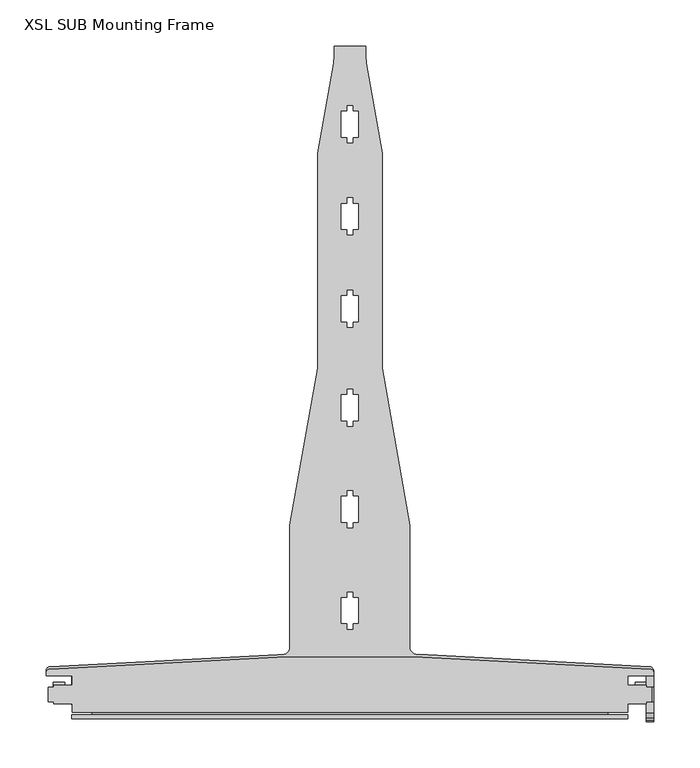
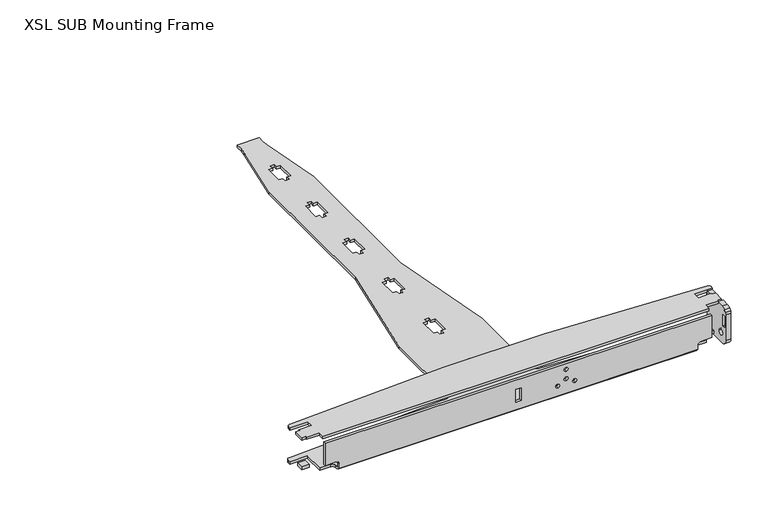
"""IFC4 building model written with IfcOpenShell, lengths in millimetres: proxy geometry, d&b SL-Series XSL SUB Mounting Frame : XSL SUB Mounting Frame."""

from ifc_helpers import new_model, si_unit, point, frame, frame_2d, origin, place, context, project, spatial, polyline, circle_curve, trimmed, segment, composite_curve, outline, extrude, source, transform, mapped, element, save
from ifc_brep_helpers import plane_surface, cylinder_surface, revolved_surface, advanced_brep


def xsl_sub_mounting_frame_cb1839e0(model_context):
    return source(origin(), model_context, "Body", "SolidModel", [
        advanced_brep(
        [(279.5, -3.0, -13.5), (-279.5, -3.0, -13.5), (-279.5, 0.0, -13.5), (-284.5, 5.0, -13.5), (-301.5, 5.0, -13.5), (-301.5, 37.5, -13.5), (-329.5, 37.5, -13.5), (-329.5, 41.5910151, -13.5), (-324.7616798, 46.5841628, -13.5), (-78.3128241, 59.5, -13.5), (-73.0, 59.5, -13.5), (-65.0, 67.5, -13.5), (-65.0, 200.0, -13.5), (-35.0, 370.1384546, -13.5), (-35.0, 603.0424941, -13.5), (-17.7596123, 700.8175911, -13.5), (-17.0, 709.5, -13.5), (-17.0, 719.5, -13.5), (17.0, 719.5, -13.5), (17.0, 709.5, -13.5), (17.7596123, 700.8175911, -13.5), (35.0, 603.0424941, -13.5), (35.0, 370.1384546, -13.5), (65.0, 200.0, -13.5), (65.0, 67.5, -13.5), (74.7244138, 59.6880606, -13.5), (324.7616798, 46.5841628, -13.5), (329.5, 41.5910151, -13.5), (329.5, 37.5, -13.5), (301.5, 37.5, -13.5), (301.5, 5.0, -13.5), (284.5, 5.0, -13.5), (279.5, 0.0, -13.5), (-3.0, 341.25, -13.5), (-9.25, 341.25, -13.5), (-9.25, 313.25, -13.5), (-3.0, 313.25, -13.5), (-3.0, 307.25, -13.5), (3.0, 307.25, -13.5), (3.0, 313.25, -13.5), (9.25, 313.25, -13.5), (9.25, 341.25, -13.5), (3.0, 341.25, -13.5), (3.0, 347.25, -13.5), (-3.0, 347.25, -13.5), (-3.0, 231.25, -13.5), (-9.25, 231.25, -13.5), (-9.25, 203.25, -13.5), (-3.0, 203.25, -13.5), (-3.0, 197.25, -13.5), (3.0, 197.25, -13.5), (3.0, 203.25, -13.5), (9.25, 203.25, -13.5), (9.25, 231.25, -13.5), (3.0, 231.25, -13.5), (3.0, 237.25, -13.5), (-3.0, 237.25, -13.5), (-3.0, 121.25, -13.5), (-9.25, 121.25, -13.5), (-9.25, 93.25, -13.5), (-3.0, 93.25, -13.5), (-3.0, 87.25, -13.5), (3.0, 87.25, -13.5), (3.0, 93.25, -13.5), (9.25, 93.25, -13.5), (9.25, 121.25, -13.5), (3.0, 121.25, -13.5), (3.0, 127.25, -13.5), (-3.0, 127.25, -13.5), (-3.0, 648.75, -13.5), (-9.25, 648.75, -13.5), (-9.25, 620.75, -13.5), (-3.0, 620.75, -13.5), (-3.0, 614.75, -13.5), (3.0, 614.75, -13.5), (3.0, 620.75, -13.5), (9.25, 620.75, -13.5), (9.25, 648.75, -13.5), (3.0, 648.75, -13.5), (3.0, 654.75, -13.5), (-3.0, 654.75, -13.5), (-3.0, 548.75, -13.5), (-9.25, 548.75, -13.5), (-9.25, 520.75, -13.5), (-3.0, 520.75, -13.5), (-3.0, 514.75, -13.5), (3.0, 514.75, -13.5), (3.0, 520.75, -13.5), (9.25, 520.75, -13.5), (9.25, 548.75, -13.5), (3.0, 548.75, -13.5), (3.0, 554.75, -13.5), (-3.0, 554.75, -13.5), (-3.0, 448.75, -13.5), (-9.25, 448.75, -13.5), (-9.25, 420.75, -13.5), (-3.0, 420.75, -13.5), (-3.0, 414.75, -13.5), (3.0, 414.75, -13.5), (3.0, 420.75, -13.5), (9.25, 420.75, -13.5), (9.25, 448.75, -13.5), (3.0, 448.75, -13.5), (3.0, 454.75, -13.5), (-3.0, 454.75, -13.5), (279.5, -3.0, -9.5), (279.5, 0.0, -9.5), (284.5, 5.0, -9.5), (301.5, 5.0, -9.5), (301.5, 37.5, -9.5), (329.5, 37.5, -9.5), (329.5, 41.5910151, -9.5), (324.7616798, 46.5841628, -9.5), (74.7244138, 59.6880606, -9.5), (65.0, 67.5, -9.5), (65.0, 200.0, -9.5), (35.0, 370.1384546, -9.5), (35.0, 603.0424941, -9.5), (17.7596123, 700.8175911, -9.5), (17.0, 709.5, -9.5), (17.0, 719.5, -9.5), (-17.0, 719.5, -9.5), (-17.0, 709.5, -9.5), (-17.7596123, 700.8175911, -9.5), (-35.0, 603.0424941, -9.5), (-35.0, 370.1384546, -9.5), (-65.0, 200.0, -9.5), (-65.0, 67.5, -9.5), (-73.0, 59.5, -9.5), (-78.3128241, 59.5, -9.5), (-324.7616798, 46.5841628, -9.5), (-329.5, 41.5910151, -9.5), (-329.5, 37.5, -9.5), (-301.5, 37.5, -9.5), (-301.5, 5.0, -9.5), (-284.5, 5.0, -9.5), (-279.5, 0.0, -9.5), (-279.5, -3.0, -9.5), (-3.0, 341.25, -9.5), (-3.0, 347.25, -9.5), (3.0, 347.25, -9.5), (3.0, 341.25, -9.5), (9.25, 341.25, -9.5), (9.25, 313.25, -9.5), (3.0, 313.25, -9.5), (3.0, 307.25, -9.5), (-3.0, 307.25, -9.5), (-3.0, 313.25, -9.5), (-9.25, 313.25, -9.5), (-9.25, 341.25, -9.5), (-3.0, 231.25, -9.5), (-3.0, 237.25, -9.5), (3.0, 237.25, -9.5), (3.0, 231.25, -9.5), (9.25, 231.25, -9.5), (9.25, 203.25, -9.5), (3.0, 203.25, -9.5), (3.0, 197.25, -9.5), (-3.0, 197.25, -9.5), (-3.0, 203.25, -9.5), (-9.25, 203.25, -9.5), (-9.25, 231.25, -9.5), (-3.0, 121.25, -9.5), (-3.0, 127.25, -9.5), (3.0, 127.25, -9.5), (3.0, 121.25, -9.5), (9.25, 121.25, -9.5), (9.25, 93.25, -9.5), (3.0, 93.25, -9.5), (3.0, 87.25, -9.5), (-3.0, 87.25, -9.5), (-3.0, 93.25, -9.5), (-9.25, 93.25, -9.5), (-9.25, 121.25, -9.5), (-3.0, 648.75, -9.5), (-3.0, 654.75, -9.5), (3.0, 654.75, -9.5), (3.0, 648.75, -9.5), (9.25, 648.75, -9.5), (9.25, 620.75, -9.5), (3.0, 620.75, -9.5), (3.0, 614.75, -9.5), (-3.0, 614.75, -9.5), (-3.0, 620.75, -9.5), (-9.25, 620.75, -9.5), (-9.25, 648.75, -9.5), (-3.0, 548.75, -9.5), (-3.0, 554.75, -9.5), (3.0, 554.75, -9.5), (3.0, 548.75, -9.5), (9.25, 548.75, -9.5), (9.25, 520.75, -9.5), (3.0, 520.75, -9.5), (3.0, 514.75, -9.5), (-3.0, 514.75, -9.5), (-3.0, 520.75, -9.5), (-9.25, 520.75, -9.5), (-9.25, 548.75, -9.5), (-3.0, 448.75, -9.5), (-3.0, 454.75, -9.5), (3.0, 454.75, -9.5), (3.0, 448.75, -9.5), (9.25, 448.75, -9.5), (9.25, 420.75, -9.5), (3.0, 420.75, -9.5), (3.0, 414.75, -9.5), (-3.0, 414.75, -9.5), (-3.0, 420.75, -9.5), (-9.25, 420.75, -9.5), (-9.25, 448.75, -9.5), (-301.5, -10.0, 40.5), (-301.5, -10.0, 3.5), (-284.5, -10.0, 3.5), (-279.5, -10.0, -1.5), (-279.5, -10.0, -8.5), (279.5, -10.0, -8.5), (279.5, -10.0, -1.5), (284.5, -10.0, 3.5), (301.5, -10.0, 3.5), (301.5, -10.0, 40.5), (74.4934506, -10.0, 27.5877903), (74.4934506, -10.0, 33.6005195), (74.4934506, -10.0, 12.1878093), (74.4934506, -10.0, 18.2005386), (61.1905696, -10.0, 4.6096843), (61.1905696, -10.0, 10.6224136), (87.7963317, -10.0, 4.6096843), (87.7963317, -10.0, 10.6224136), (4.25, -10.0, 25.0), (4.25, -10.0, 4.0), (-4.25, -10.0, 4.0), (-4.25, -10.0, 25.0), (-301.5, -6.0, 40.5), (301.5, -6.0, 40.5), (301.5, -6.0, 3.5), (284.5, -6.0, 3.5), (279.5, -6.0, -1.5), (279.5, -6.0, -8.5), (-279.5, -6.0, -8.5), (-279.5, -6.0, -1.5), (-284.5, -6.0, 3.5), (-301.5, -6.0, 3.5), (74.4934506, -6.0, 27.5877903), (74.4934506, -6.0, 33.6005195), (74.4934506, -6.0, 12.1878093), (74.4934506, -6.0, 18.2005386), (61.1905696, -6.0, 4.6096843), (61.1905696, -6.0, 10.6224136), (87.7963317, -6.0, 4.6096843), (87.7963317, -6.0, 10.6224136), (4.25, -6.0, 25.0), (-4.25, -6.0, 25.0), (-4.25, -6.0, 4.0), (4.25, -6.0, 4.0), (279.5, -3.0, -12.5), (-279.5, -3.0, -12.5), (-279.5, -3.0, -8.5), (279.5, -3.0, -8.5)],
        [
            (0, 1),
            (1, 2),
            (2, 3, circle_curve(frame((-284.5, 0.0, -13.5), z_axis=(0.0, 0.0, 1.0), x_axis=(-1.0, 0.0, 0.0)), 5.0)),
            (3, 4),
            (4, 5),
            (5, 6),
            (6, 7),
            (7, 8, circle_curve(frame((-324.5, 41.5910151, -13.5), z_axis=(0.0, 0.0, -1.0), x_axis=(-1.0, 0.0, 0.0)), 5.0)),
            (8, 9),
            (9, 10),
            (10, 11, circle_curve(frame((-73.0, 67.5, -13.5), z_axis=(0.0, 0.0, 1.0), x_axis=(-1.0, 0.0, 0.0)), 8.0)),
            (11, 12),
            (12, 13),
            (13, 14),
            (14, 15),
            (15, 16, circle_curve(frame((-67.0, 709.5, -13.5), z_axis=(0.0, 0.0, 1.0), x_axis=(-1.0, 0.0, 0.0)), 50.0)),
            (16, 17),
            (17, 18),
            (18, 19),
            (19, 20, circle_curve(frame((67.0, 709.5, -13.5), z_axis=(0.0, 0.0, 1.0), x_axis=(-1.0, 0.0, 0.0)), 50.0)),
            (20, 21),
            (21, 22),
            (22, 23),
            (23, 24),
            (24, 25, circle_curve(frame((73.0, 67.5, -13.5), z_axis=(0.0, 0.0, 1.0), x_axis=(-1.0, 0.0, 0.0)), 8.0)),
            (25, 26),
            (26, 27, circle_curve(frame((324.5, 41.5910151, -13.5), z_axis=(0.0, 0.0, -1.0), x_axis=(-1.0, 0.0, 0.0)), 5.0)),
            (27, 28),
            (28, 29),
            (29, 30),
            (30, 31),
            (31, 32, circle_curve(frame((284.5, 0.0, -13.5), z_axis=(0.0, 0.0, 1.0), x_axis=(-1.0, 0.0, 0.0)), 5.0)),
            (32, 0),
            (33, 34),
            (34, 35),
            (35, 36),
            (36, 37),
            (37, 38),
            (38, 39),
            (39, 40),
            (40, 41),
            (41, 42),
            (42, 43),
            (43, 44),
            (44, 33),
            (45, 46),
            (46, 47),
            (47, 48),
            (48, 49),
            (49, 50),
            (50, 51),
            (51, 52),
            (52, 53),
            (53, 54),
            (54, 55),
            (55, 56),
            (56, 45),
            (57, 58),
            (58, 59),
            (59, 60),
            (60, 61),
            (61, 62),
            (62, 63),
            (63, 64),
            (64, 65),
            (65, 66),
            (66, 67),
            (67, 68),
            (68, 57),
            (69, 70),
            (70, 71),
            (71, 72),
            (72, 73),
            (73, 74),
            (74, 75),
            (75, 76),
            (76, 77),
            (77, 78),
            (78, 79),
            (79, 80),
            (80, 69),
            (81, 82),
            (82, 83),
            (83, 84),
            (84, 85),
            (85, 86),
            (86, 87),
            (87, 88),
            (88, 89),
            (89, 90),
            (90, 91),
            (91, 92),
            (92, 81),
            (93, 94),
            (94, 95),
            (95, 96),
            (96, 97),
            (97, 98),
            (98, 99),
            (99, 100),
            (100, 101),
            (101, 102),
            (102, 103),
            (103, 104),
            (104, 93),
            (105, 106),
            (106, 107, circle_curve(frame((284.5, 0.0, -9.5), z_axis=(0.0, 0.0, -1.0), x_axis=(-1.0, 0.0, 0.0)), 5.0)),
            (107, 108),
            (108, 109),
            (109, 110),
            (110, 111),
            (111, 112, circle_curve(frame((324.5, 41.5910151, -9.5), z_axis=(0.0, 0.0, 1.0), x_axis=(-1.0, 0.0, 0.0)), 5.0)),
            (112, 113),
            (113, 114, circle_curve(frame((73.0, 67.5, -9.5), z_axis=(0.0, 0.0, -1.0), x_axis=(-1.0, 0.0, 0.0)), 8.0)),
            (114, 115),
            (115, 116),
            (116, 117),
            (117, 118),
            (118, 119, circle_curve(frame((67.0, 709.5, -9.5), z_axis=(0.0, 0.0, -1.0), x_axis=(-1.0, 0.0, 0.0)), 50.0)),
            (119, 120),
            (120, 121),
            (121, 122),
            (122, 123, circle_curve(frame((-67.0, 709.5, -9.5), z_axis=(0.0, 0.0, -1.0), x_axis=(-1.0, 0.0, 0.0)), 50.0)),
            (123, 124),
            (124, 125),
            (125, 126),
            (126, 127),
            (127, 128, circle_curve(frame((-73.0, 67.5, -9.5), z_axis=(0.0, 0.0, -1.0), x_axis=(-1.0, 0.0, 0.0)), 8.0)),
            (128, 129),
            (129, 130),
            (130, 131, circle_curve(frame((-324.5, 41.5910151, -9.5), z_axis=(0.0, 0.0, 1.0), x_axis=(-1.0, 0.0, 0.0)), 5.0)),
            (131, 132),
            (132, 133),
            (133, 134),
            (134, 135),
            (135, 136, circle_curve(frame((-284.5, 0.0, -9.5), z_axis=(0.0, 0.0, -1.0), x_axis=(-1.0, 0.0, 0.0)), 5.0)),
            (136, 137),
            (137, 105),
            (138, 139),
            (139, 140),
            (140, 141),
            (141, 142),
            (142, 143),
            (143, 144),
            (144, 145),
            (145, 146),
            (146, 147),
            (147, 148),
            (148, 149),
            (149, 138),
            (150, 151),
            (151, 152),
            (152, 153),
            (153, 154),
            (154, 155),
            (155, 156),
            (156, 157),
            (157, 158),
            (158, 159),
            (159, 160),
            (160, 161),
            (161, 150),
            (162, 163),
            (163, 164),
            (164, 165),
            (165, 166),
            (166, 167),
            (167, 168),
            (168, 169),
            (169, 170),
            (170, 171),
            (171, 172),
            (172, 173),
            (173, 162),
            (174, 175),
            (175, 176),
            (176, 177),
            (177, 178),
            (178, 179),
            (179, 180),
            (180, 181),
            (181, 182),
            (182, 183),
            (183, 184),
            (184, 185),
            (185, 174),
            (186, 187),
            (187, 188),
            (188, 189),
            (189, 190),
            (190, 191),
            (191, 192),
            (192, 193),
            (193, 194),
            (194, 195),
            (195, 196),
            (196, 197),
            (197, 186),
            (198, 199),
            (199, 200),
            (200, 201),
            (201, 202),
            (202, 203),
            (203, 204),
            (204, 205),
            (205, 206),
            (206, 207),
            (207, 208),
            (208, 209),
            (209, 198),
            (210, 211),
            (211, 212),
            (212, 213, circle_curve(frame((-284.5, -10.0, -1.5), z_axis=(0.0, 1.0, 0.0), x_axis=(0.0, 0.0, 1.0)), 5.0)),
            (213, 214),
            (214, 215),
            (215, 216),
            (216, 217, circle_curve(frame((284.5, -10.0, -1.5), z_axis=(0.0, 1.0, 0.0), x_axis=(0.0, 0.0, 1.0)), 5.0)),
            (217, 218),
            (218, 219),
            (219, 210),
            (220, 221, circle_curve(frame((74.4934506, -10.0, 30.5941549), z_axis=(0.0, 1.0, 0.0), x_axis=(0.0, 0.0, 1.0)), 3.0063646)),
            (221, 220, circle_curve(frame((74.4934506, -10.0, 30.5941549), z_axis=(0.0, 1.0, 0.0), x_axis=(0.0, 0.0, 1.0)), 3.0063646)),
            (222, 223, circle_curve(frame((74.4934506, -10.0, 15.194174), z_axis=(0.0, 1.0, 0.0), x_axis=(0.0, 0.0, 1.0)), 3.0063646)),
            (223, 222, circle_curve(frame((74.4934506, -10.0, 15.194174), z_axis=(0.0, 1.0, 0.0), x_axis=(0.0, 0.0, 1.0)), 3.0063646)),
            (224, 225, circle_curve(frame((61.1905696, -10.0, 7.616049), z_axis=(0.0, 1.0, 0.0), x_axis=(0.0, 0.0, 1.0)), 3.0063646)),
            (225, 224, circle_curve(frame((61.1905696, -10.0, 7.616049), z_axis=(0.0, 1.0, 0.0), x_axis=(0.0, 0.0, 1.0)), 3.0063646)),
            (226, 227, circle_curve(frame((87.7963317, -10.0, 7.616049), z_axis=(0.0, 1.0, 0.0), x_axis=(0.0, 0.0, 1.0)), 3.0063646)),
            (227, 226, circle_curve(frame((87.7963317, -10.0, 7.616049), z_axis=(0.0, 1.0, 0.0), x_axis=(0.0, 0.0, 1.0)), 3.0063646)),
            (228, 229),
            (229, 230),
            (230, 231),
            (231, 228),
            (232, 233),
            (233, 234),
            (234, 235),
            (235, 236, circle_curve(frame((284.5, -6.0, -1.5), z_axis=(0.0, -1.0, 0.0), x_axis=(0.0, 0.0, 1.0)), 5.0)),
            (236, 237),
            (237, 238),
            (238, 239),
            (239, 240, circle_curve(frame((-284.5, -6.0, -1.5), z_axis=(0.0, -1.0, 0.0), x_axis=(0.0, 0.0, 1.0)), 5.0)),
            (240, 241),
            (241, 232),
            (242, 243, circle_curve(frame((74.4934506, -6.0, 30.5941549), z_axis=(0.0, -1.0, 0.0), x_axis=(0.0, 0.0, 1.0)), 3.0063646)),
            (243, 242, circle_curve(frame((74.4934506, -6.0, 30.5941549), z_axis=(0.0, -1.0, 0.0), x_axis=(0.0, 0.0, 1.0)), 3.0063646)),
            (244, 245, circle_curve(frame((74.4934506, -6.0, 15.194174), z_axis=(0.0, -1.0, 0.0), x_axis=(0.0, 0.0, 1.0)), 3.0063646)),
            (245, 244, circle_curve(frame((74.4934506, -6.0, 15.194174), z_axis=(0.0, -1.0, 0.0), x_axis=(0.0, 0.0, 1.0)), 3.0063646)),
            (246, 247, circle_curve(frame((61.1905696, -6.0, 7.616049), z_axis=(0.0, -1.0, 0.0), x_axis=(0.0, 0.0, 1.0)), 3.0063646)),
            (247, 246, circle_curve(frame((61.1905696, -6.0, 7.616049), z_axis=(0.0, -1.0, 0.0), x_axis=(0.0, 0.0, 1.0)), 3.0063646)),
            (248, 249, circle_curve(frame((87.7963317, -6.0, 7.616049), z_axis=(0.0, -1.0, 0.0), x_axis=(0.0, 0.0, 1.0)), 3.0063646)),
            (249, 248, circle_curve(frame((87.7963317, -6.0, 7.616049), z_axis=(0.0, -1.0, 0.0), x_axis=(0.0, 0.0, 1.0)), 3.0063646)),
            (250, 251),
            (251, 252),
            (252, 253),
            (253, 250),
            (210, 232),
            (241, 211),
            (218, 234),
            (233, 219),
            (240, 212),
            (239, 213),
            (216, 236),
            (235, 217),
            (254, 215, circle_curve(frame((279.5, -2.6001882, -3.6753294), z_axis=(-1.0, 0.0, 0.0), x_axis=(0.0, -1.0, 0.0)), 8.833723)),
            (214, 255, circle_curve(frame((-279.5, -2.6001882, -3.6753294), z_axis=(1.0, 0.0, 0.0), x_axis=(0.0, -1.0, 0.0)), 8.833723)),
            (255, 254),
            (256, 257),
            (257, 105),
            (137, 256),
            (256, 238),
            (237, 257),
            (0, 254),
            (255, 1),
            (220, 242),
            (243, 221),
            (222, 244),
            (245, 223),
            (224, 246),
            (247, 225),
            (226, 248),
            (249, 227),
            (25, 113),
            (112, 26),
            (24, 114),
            (23, 115),
            (22, 116),
            (21, 117),
            (20, 118),
            (19, 119),
            (18, 120),
            (17, 121),
            (16, 122),
            (15, 123),
            (14, 124),
            (13, 125),
            (12, 126),
            (11, 127),
            (10, 128),
            (9, 129),
            (8, 130),
            (33, 138),
            (149, 34),
            (148, 35),
            (147, 36),
            (146, 37),
            (145, 38),
            (144, 39),
            (143, 40),
            (142, 41),
            (141, 42),
            (140, 43),
            (139, 44),
            (56, 151),
            (150, 45),
            (55, 152),
            (54, 153),
            (53, 154),
            (52, 155),
            (51, 156),
            (50, 157),
            (49, 158),
            (48, 159),
            (47, 160),
            (46, 161),
            (68, 163),
            (162, 57),
            (67, 164),
            (66, 165),
            (65, 166),
            (64, 167),
            (63, 168),
            (62, 169),
            (61, 170),
            (60, 171),
            (59, 172),
            (58, 173),
            (80, 175),
            (174, 69),
            (79, 176),
            (78, 177),
            (77, 178),
            (76, 179),
            (75, 180),
            (74, 181),
            (73, 182),
            (72, 183),
            (71, 184),
            (70, 185),
            (92, 187),
            (186, 81),
            (91, 188),
            (90, 189),
            (89, 190),
            (88, 191),
            (87, 192),
            (86, 193),
            (85, 194),
            (84, 195),
            (83, 196),
            (82, 197),
            (104, 199),
            (198, 93),
            (103, 200),
            (102, 201),
            (101, 202),
            (100, 203),
            (99, 204),
            (98, 205),
            (97, 206),
            (96, 207),
            (95, 208),
            (94, 209),
            (28, 110),
            (109, 29),
            (27, 111),
            (108, 30),
            (7, 131),
            (6, 132),
            (5, 133),
            (4, 134),
            (228, 250),
            (253, 229),
            (252, 230),
            (251, 231),
            (3, 135),
            (2, 136),
            (32, 106),
            (31, 107),
        ],
        [
            plane_surface(frame((279.5, -10.0, -13.5), z_axis=(0.0, 0.0, -1.0), x_axis=(0.0, -1.0, 0.0))),
            plane_surface(frame((279.5, -10.0, -9.5), z_axis=(0.0, 0.0, 1.0), x_axis=(0.0, 1.0, 0.0))),
            plane_surface(frame((-301.5, -10.0, -15.0), z_axis=(0.0, -1.0, 0.0), x_axis=(0.0, 0.0, -1.0))),
            plane_surface(frame((-301.5, -6.0, -15.0), z_axis=(0.0, 1.0, 0.0), x_axis=(0.0, 0.0, 1.0))),
            plane_surface(frame((-301.5, -10.0, 40.5), z_axis=(-1.0, 0.0, 0.0), x_axis=(0.0, 1.0, 0.0))),
            plane_surface(frame((301.5, -10.0, 3.5), z_axis=(1.0, 0.0, 0.0), x_axis=(0.0, 1.0, 0.0))),
            plane_surface(frame((301.5, -10.0, 40.5), z_axis=(0.0, 0.0, 1.0), x_axis=(0.0, 1.0, 0.0))),
            plane_surface(frame((-301.5, -10.0, 3.5), z_axis=(0.0, 0.0, -1.0), x_axis=(0.0, 1.0, 0.0))),
            revolved_surface(polyline([(-284.5, -6.0, 3.5), (-284.5, -10.0, 3.5)]), (-284.5, -6.0, -1.5), (0.0, 1.0, 0.0)),
            revolved_surface(polyline([(284.5, -6.0, 3.5), (284.5, -10.0, 3.5)]), (284.5, -6.0, -1.5), (0.0, 1.0, 0.0)),
            plane_surface(frame((284.5, -10.0, 3.5), z_axis=(0.0, 0.0, -1.0), x_axis=(0.0, 1.0, 0.0))),
            cylinder_surface(frame((-279.5, -2.6001882, -3.6753294), z_axis=(1.0, 0.0, 0.0), x_axis=(0.0, -1.0, 0.0)), 8.833723),
            plane_surface(frame((279.5, -3.0, -12.5), z_axis=(0.0, 1.0, 0.0), x_axis=(-1.0, 0.0, 0.0))),
            plane_surface(frame((279.5, -3.0, -8.5), z_axis=(0.0, 0.0, 1.0), x_axis=(-1.0, 0.0, 0.0))),
            plane_surface(frame((-279.5, -3.0, -9.5), z_axis=(0.0, -1.0, 0.0), x_axis=(0.0, 0.0, -1.0))),
            revolved_surface(polyline([(74.4934506, -6.0, 33.6005195), (74.4934506, -10.0, 33.6005195)]), (74.4934506, -10.0, 30.5941549), (0.0, 1.0, 0.0)),
            revolved_surface(polyline([(74.4934506, -6.0, 18.2005386), (74.4934506, -10.0, 18.2005386)]), (74.4934506, -10.0, 15.194174), (0.0, 1.0, 0.0)),
            revolved_surface(polyline([(61.1905696, -6.0, 10.6224136), (61.1905696, -10.0, 10.6224136)]), (61.1905696, -10.0, 7.616049), (0.0, 1.0, 0.0)),
            revolved_surface(polyline([(87.7963317, -6.0, 10.6224136), (87.7963317, -10.0, 10.6224136)]), (87.7963317, -10.0, 7.616049), (0.0, 1.0, 0.0)),
            plane_surface(frame((324.7616798, 46.5841628, -9.5), z_axis=(0.052335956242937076, 0.9986295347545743, 0.0), x_axis=(0.0, 0.0, -1.0))),
            revolved_surface(polyline([(65.0, 67.5, -13.5), (65.0, 67.5, -9.5)]), (73.0, 67.5, -13.5), (0.0, 0.0, -1.0)),
            plane_surface(frame((65.0, 67.5, -9.5), z_axis=(1.0, 0.0, 0.0), x_axis=(0.0, 0.0, -1.0))),
            plane_surface(frame((65.0, 200.0, -9.5), z_axis=(0.9848077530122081, 0.17364817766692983, 0.0), x_axis=(0.0, 0.0, -1.0))),
            plane_surface(frame((35.0, 370.1384546, -9.5), z_axis=(1.0, 0.0, 0.0), x_axis=(0.0, 0.0, -1.0))),
            plane_surface(frame((35.0, 603.0424941, -9.5), z_axis=(0.9848077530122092, 0.1736481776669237, 0.0), x_axis=(0.0, 0.0, -1.0))),
            revolved_surface(polyline([(17.0, 709.5, -13.5), (17.0, 709.5, -9.5)]), (67.0, 709.5, -13.5), (0.0, 0.0, -1.0)),
            plane_surface(frame((17.0, 709.5, -9.5), z_axis=(1.0, 0.0, 0.0), x_axis=(0.0, 0.0, -1.0))),
            plane_surface(frame((17.0, 719.5, -9.5), z_axis=(0.0, 1.0, 0.0), x_axis=(0.0, 0.0, -1.0))),
            plane_surface(frame((-17.0, 719.5, -9.5), z_axis=(-1.0, 0.0, 0.0), x_axis=(0.0, 0.0, -1.0))),
            revolved_surface(polyline([(-117.0, 709.5, -13.5), (-117.0, 709.5, -9.5)]), (-67.0, 709.5, -13.5), (0.0, 0.0, -1.0)),
            plane_surface(frame((-17.7596123, 700.8175911, -9.5), z_axis=(-0.9848077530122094, 0.17364817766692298, 0.0), x_axis=(0.0, 0.0, -1.0))),
            plane_surface(frame((-35.0, 603.0424941, -9.5), z_axis=(-1.0, 0.0, 0.0), x_axis=(0.0, 0.0, -1.0))),
            plane_surface(frame((-35.0, 370.1384546, -9.5), z_axis=(-0.9848077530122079, 0.17364817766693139, 0.0), x_axis=(0.0, 0.0, -1.0))),
            plane_surface(frame((-65.0, 200.0, -9.5), z_axis=(-1.0, 0.0, 0.0), x_axis=(0.0, 0.0, -1.0))),
            revolved_surface(polyline([(-81.0, 67.5, -13.5), (-81.0, 67.5, -9.5)]), (-73.0, 67.5, -13.5), (0.0, 0.0, -1.0)),
            plane_surface(frame((-73.0, 59.5, -9.5), z_axis=(0.0, 1.0, 0.0), x_axis=(0.0, 0.0, -1.0))),
            plane_surface(frame((-78.3128241, 59.5, -9.5), z_axis=(-0.052335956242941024, 0.998629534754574, 0.0), x_axis=(0.0, 0.0, -1.0))),
            plane_surface(frame((-9.25, 341.25, -9.5), z_axis=(0.0, -1.0, 0.0), x_axis=(0.0, 0.0, -1.0))),
            plane_surface(frame((-9.25, 313.25, -9.5), z_axis=(1.0, 0.0, 0.0), x_axis=(0.0, 0.0, -1.0))),
            plane_surface(frame((-3.0, 313.25, -9.5), z_axis=(0.0, 1.0, 0.0), x_axis=(0.0, 0.0, -1.0))),
            plane_surface(frame((-3.0, 307.25, -9.5), z_axis=(1.0, 0.0, 0.0), x_axis=(0.0, 0.0, -1.0))),
            plane_surface(frame((3.0, 307.25, -9.5), z_axis=(0.0, 1.0, 0.0), x_axis=(0.0, 0.0, -1.0))),
            plane_surface(frame((3.0, 313.25, -9.5), z_axis=(-1.0, 0.0, 0.0), x_axis=(0.0, 0.0, -1.0))),
            plane_surface(frame((9.25, 313.25, -9.5), z_axis=(0.0, 1.0, 0.0), x_axis=(0.0, 0.0, -1.0))),
            plane_surface(frame((9.25, 341.25, -9.5), z_axis=(-1.0, 0.0, 0.0), x_axis=(0.0, 0.0, -1.0))),
            plane_surface(frame((3.0, 341.25, -9.5), z_axis=(0.0, -1.0, 0.0), x_axis=(0.0, 0.0, -1.0))),
            plane_surface(frame((3.0, 347.25, -9.5), z_axis=(-1.0, 0.0, 0.0), x_axis=(0.0, 0.0, -1.0))),
            plane_surface(frame((-3.0, 347.25, -9.5), z_axis=(0.0, -1.0, 0.0), x_axis=(0.0, 0.0, -1.0))),
            plane_surface(frame((-3.0, 341.25, -9.5), z_axis=(1.0, 0.0, 0.0), x_axis=(0.0, 0.0, -1.0))),
            plane_surface(frame((-3.0, 231.25, -9.5), z_axis=(1.0, 0.0, 0.0), x_axis=(0.0, 0.0, -1.0))),
            plane_surface(frame((-3.0, 237.25, -9.5), z_axis=(0.0, -1.0, 0.0), x_axis=(0.0, 0.0, -1.0))),
            plane_surface(frame((3.0, 237.25, -9.5), z_axis=(-1.0, 0.0, 0.0), x_axis=(0.0, 0.0, -1.0))),
            plane_surface(frame((3.0, 231.25, -9.5), z_axis=(0.0, -1.0, 0.0), x_axis=(0.0, 0.0, -1.0))),
            plane_surface(frame((9.25, 231.25, -9.5), z_axis=(-1.0, 0.0, 0.0), x_axis=(0.0, 0.0, -1.0))),
            plane_surface(frame((9.25, 203.25, -9.5), z_axis=(0.0, 1.0, 0.0), x_axis=(0.0, 0.0, -1.0))),
            plane_surface(frame((3.0, 203.25, -9.5), z_axis=(-1.0, 0.0, 0.0), x_axis=(0.0, 0.0, -1.0))),
            plane_surface(frame((3.0, 197.25, -9.5), z_axis=(0.0, 1.0, 0.0), x_axis=(0.0, 0.0, -1.0))),
            plane_surface(frame((-3.0, 197.25, -9.5), z_axis=(1.0, 0.0, 0.0), x_axis=(0.0, 0.0, -1.0))),
            plane_surface(frame((-3.0, 203.25, -9.5), z_axis=(0.0, 1.0, 0.0), x_axis=(0.0, 0.0, -1.0))),
            plane_surface(frame((-9.25, 203.25, -9.5), z_axis=(1.0, 0.0, 0.0), x_axis=(0.0, 0.0, -1.0))),
            plane_surface(frame((-9.25, 231.25, -9.5), z_axis=(0.0, -1.0, 0.0), x_axis=(0.0, 0.0, -1.0))),
            plane_surface(frame((-3.0, 121.25, -9.5), z_axis=(1.0, 0.0, 0.0), x_axis=(0.0, 0.0, -1.0))),
            plane_surface(frame((-3.0, 127.25, -9.5), z_axis=(0.0, -1.0, 0.0), x_axis=(0.0, 0.0, -1.0))),
            plane_surface(frame((3.0, 127.25, -9.5), z_axis=(-1.0, 0.0, 0.0), x_axis=(0.0, 0.0, -1.0))),
            plane_surface(frame((3.0, 121.25, -9.5), z_axis=(0.0, -1.0, 0.0), x_axis=(0.0, 0.0, -1.0))),
            plane_surface(frame((9.25, 121.25, -9.5), z_axis=(-1.0, 0.0, 0.0), x_axis=(0.0, 0.0, -1.0))),
            plane_surface(frame((9.25, 93.25, -9.5), z_axis=(0.0, 1.0, 0.0), x_axis=(0.0, 0.0, -1.0))),
            plane_surface(frame((3.0, 93.25, -9.5), z_axis=(-1.0, 0.0, 0.0), x_axis=(0.0, 0.0, -1.0))),
            plane_surface(frame((3.0, 87.25, -9.5), z_axis=(0.0, 1.0, 0.0), x_axis=(0.0, 0.0, -1.0))),
            plane_surface(frame((-3.0, 87.25, -9.5), z_axis=(1.0, 0.0, 0.0), x_axis=(0.0, 0.0, -1.0))),
            plane_surface(frame((-3.0, 93.25, -9.5), z_axis=(0.0, 1.0, 0.0), x_axis=(0.0, 0.0, -1.0))),
            plane_surface(frame((-9.25, 93.25, -9.5), z_axis=(1.0, 0.0, 0.0), x_axis=(0.0, 0.0, -1.0))),
            plane_surface(frame((-9.25, 121.25, -9.5), z_axis=(0.0, -1.0, 0.0), x_axis=(0.0, 0.0, -1.0))),
            plane_surface(frame((-3.0, 648.75, -9.5), z_axis=(1.0, 0.0, 0.0), x_axis=(0.0, 0.0, -1.0))),
            plane_surface(frame((-3.0, 654.75, -9.5), z_axis=(0.0, -1.0, 0.0), x_axis=(0.0, 0.0, -1.0))),
            plane_surface(frame((3.0, 654.75, -9.5), z_axis=(-1.0, 0.0, 0.0), x_axis=(0.0, 0.0, -1.0))),
            plane_surface(frame((3.0, 648.75, -9.5), z_axis=(0.0, -1.0, 0.0), x_axis=(0.0, 0.0, -1.0))),
            plane_surface(frame((9.25, 648.75, -9.5), z_axis=(-1.0, 0.0, 0.0), x_axis=(0.0, 0.0, -1.0))),
            plane_surface(frame((9.25, 620.75, -9.5), z_axis=(0.0, 1.0, 0.0), x_axis=(0.0, 0.0, -1.0))),
            plane_surface(frame((3.0, 620.75, -9.5), z_axis=(-1.0, 0.0, 0.0), x_axis=(0.0, 0.0, -1.0))),
            plane_surface(frame((3.0, 614.75, -9.5), z_axis=(0.0, 1.0, 0.0), x_axis=(0.0, 0.0, -1.0))),
            plane_surface(frame((-3.0, 614.75, -9.5), z_axis=(1.0, 0.0, 0.0), x_axis=(0.0, 0.0, -1.0))),
            plane_surface(frame((-3.0, 620.75, -9.5), z_axis=(0.0, 1.0, 0.0), x_axis=(0.0, 0.0, -1.0))),
            plane_surface(frame((-9.25, 620.75, -9.5), z_axis=(1.0, 0.0, 0.0), x_axis=(0.0, 0.0, -1.0))),
            plane_surface(frame((-9.25, 648.75, -9.5), z_axis=(0.0, -1.0, 0.0), x_axis=(0.0, 0.0, -1.0))),
            plane_surface(frame((-3.0, 548.75, -9.5), z_axis=(1.0, 0.0, 0.0), x_axis=(0.0, 0.0, -1.0))),
            plane_surface(frame((-3.0, 554.75, -9.5), z_axis=(0.0, -1.0, 0.0), x_axis=(0.0, 0.0, -1.0))),
            plane_surface(frame((3.0, 554.75, -9.5), z_axis=(-1.0, 0.0, 0.0), x_axis=(0.0, 0.0, -1.0))),
            plane_surface(frame((3.0, 548.75, -9.5), z_axis=(0.0, -1.0, 0.0), x_axis=(0.0, 0.0, -1.0))),
            plane_surface(frame((9.25, 548.75, -9.5), z_axis=(-1.0, 0.0, 0.0), x_axis=(0.0, 0.0, -1.0))),
            plane_surface(frame((9.25, 520.75, -9.5), z_axis=(0.0, 1.0, 0.0), x_axis=(0.0, 0.0, -1.0))),
            plane_surface(frame((3.0, 520.75, -9.5), z_axis=(-1.0, 0.0, 0.0), x_axis=(0.0, 0.0, -1.0))),
            plane_surface(frame((3.0, 514.75, -9.5), z_axis=(0.0, 1.0, 0.0), x_axis=(0.0, 0.0, -1.0))),
            plane_surface(frame((-3.0, 514.75, -9.5), z_axis=(1.0, 0.0, 0.0), x_axis=(0.0, 0.0, -1.0))),
            plane_surface(frame((-3.0, 520.75, -9.5), z_axis=(0.0, 1.0, 0.0), x_axis=(0.0, 0.0, -1.0))),
            plane_surface(frame((-9.25, 520.75, -9.5), z_axis=(1.0, 0.0, 0.0), x_axis=(0.0, 0.0, -1.0))),
            plane_surface(frame((-9.25, 548.75, -9.5), z_axis=(0.0, -1.0, 0.0), x_axis=(0.0, 0.0, -1.0))),
            plane_surface(frame((-3.0, 448.75, -9.5), z_axis=(1.0, 0.0, 0.0), x_axis=(0.0, 0.0, -1.0))),
            plane_surface(frame((-3.0, 454.75, -9.5), z_axis=(0.0, -1.0, 0.0), x_axis=(0.0, 0.0, -1.0))),
            plane_surface(frame((3.0, 454.75, -9.5), z_axis=(-1.0, 0.0, 0.0), x_axis=(0.0, 0.0, -1.0))),
            plane_surface(frame((3.0, 448.75, -9.5), z_axis=(0.0, -1.0, 0.0), x_axis=(0.0, 0.0, -1.0))),
            plane_surface(frame((9.25, 448.75, -9.5), z_axis=(-1.0, 0.0, 0.0), x_axis=(0.0, 0.0, -1.0))),
            plane_surface(frame((9.25, 420.75, -9.5), z_axis=(0.0, 1.0, 0.0), x_axis=(0.0, 0.0, -1.0))),
            plane_surface(frame((3.0, 420.75, -9.5), z_axis=(-1.0, 0.0, 0.0), x_axis=(0.0, 0.0, -1.0))),
            plane_surface(frame((3.0, 414.75, -9.5), z_axis=(0.0, 1.0, 0.0), x_axis=(0.0, 0.0, -1.0))),
            plane_surface(frame((-3.0, 414.75, -9.5), z_axis=(1.0, 0.0, 0.0), x_axis=(0.0, 0.0, -1.0))),
            plane_surface(frame((-3.0, 420.75, -9.5), z_axis=(0.0, 1.0, 0.0), x_axis=(0.0, 0.0, -1.0))),
            plane_surface(frame((-9.25, 420.75, -9.5), z_axis=(1.0, 0.0, 0.0), x_axis=(0.0, 0.0, -1.0))),
            plane_surface(frame((-9.25, 448.75, -9.5), z_axis=(0.0, -1.0, 0.0), x_axis=(0.0, 0.0, -1.0))),
            plane_surface(frame((301.5, 37.5, -9.5), z_axis=(0.0, -1.0, 0.0), x_axis=(0.0, 0.0, -1.0))),
            plane_surface(frame((329.5, 37.5, -9.5), z_axis=(1.0, 0.0, 0.0), x_axis=(0.0, 0.0, -1.0))),
            cylinder_surface(frame((324.5, 41.5910151, -13.5), z_axis=(0.0, 0.0, 1.0), x_axis=(-1.0, 0.0, 0.0)), 5.0),
            plane_surface(frame((301.5, 5.0, -9.5), z_axis=(1.0, 0.0, 0.0), x_axis=(0.0, 0.0, -1.0))),
            cylinder_surface(frame((-324.5, 41.5910151, -13.5), z_axis=(0.0, 0.0, 1.0), x_axis=(-1.0, 0.0, 0.0)), 5.0),
            plane_surface(frame((-329.5, 41.5910151, -9.5), z_axis=(-1.0, 0.0, 0.0), x_axis=(0.0, 0.0, -1.0))),
            plane_surface(frame((-329.5, 37.5, -9.5), z_axis=(0.0, -1.0, 0.0), x_axis=(0.0, 0.0, -1.0))),
            plane_surface(frame((-301.5, 37.5, -9.5), z_axis=(-1.0, 0.0, 0.0), x_axis=(0.0, 0.0, -1.0))),
            plane_surface(frame((4.25, -10.0, 25.0), z_axis=(-1.0, 0.0, 0.0), x_axis=(0.0, 1.0, 0.0))),
            plane_surface(frame((4.25, -10.0, 4.0), z_axis=(0.0, 0.0, 1.0), x_axis=(0.0, 1.0, 0.0))),
            plane_surface(frame((-4.25, -10.0, 4.0), z_axis=(1.0, 0.0, 0.0), x_axis=(0.0, 1.0, 0.0))),
            plane_surface(frame((-4.25, -10.0, 25.0), z_axis=(0.0, 0.0, -1.0), x_axis=(0.0, 1.0, 0.0))),
            plane_surface(frame((-301.5, 5.0, -9.5), z_axis=(0.0, -1.0, 0.0), x_axis=(0.0, 0.0, -1.0))),
            revolved_surface(polyline([(-289.5, 0.0, -13.5), (-289.5, 0.0, -9.5)]), (-284.5, 0.0, -13.5), (0.0, 0.0, -1.0)),
            plane_surface(frame((-279.5, 0.0, -9.5), z_axis=(-1.0, 0.0, 0.0), x_axis=(0.0, 0.0, -1.0))),
            plane_surface(frame((279.5, -3.0, -9.5), z_axis=(1.0, 0.0, 0.0), x_axis=(0.0, 0.0, -1.0))),
            revolved_surface(polyline([(279.5, 0.0, -13.5), (279.5, 0.0, -9.5)]), (284.5, 0.0, -13.5), (0.0, 0.0, -1.0)),
            plane_surface(frame((284.5, 5.0, -9.5), z_axis=(0.0, -1.0, 0.0), x_axis=(0.0, 0.0, -1.0))),
        ],
        [
            (0, [[1, 2, 3, 4, 5, 6, 7, 8, 9, 10, 11, 12, 13, 14, 15, 16, 17, 18, 19, 20, 21, 22, 23, 24, 25, 26, 27, 28, 29, 30, 31, 32, 33], [34, 35, 36, 37, 38, 39, 40, 41, 42, 43, 44, 45], [46, 47, 48, 49, 50, 51, 52, 53, 54, 55, 56, 57], [58, 59, 60, 61, 62, 63, 64, 65, 66, 67, 68, 69], [70, 71, 72, 73, 74, 75, 76, 77, 78, 79, 80, 81], [82, 83, 84, 85, 86, 87, 88, 89, 90, 91, 92, 93], [94, 95, 96, 97, 98, 99, 100, 101, 102, 103, 104, 105]]),
            (1, [[106, 107, 108, 109, 110, 111, 112, 113, 114, 115, 116, 117, 118, 119, 120, 121, 122, 123, 124, 125, 126, 127, 128, 129, 130, 131, 132, 133, 134, 135, 136, 137, 138], [139, 140, 141, 142, 143, 144, 145, 146, 147, 148, 149, 150], [151, 152, 153, 154, 155, 156, 157, 158, 159, 160, 161, 162], [163, 164, 165, 166, 167, 168, 169, 170, 171, 172, 173, 174], [175, 176, 177, 178, 179, 180, 181, 182, 183, 184, 185, 186], [187, 188, 189, 190, 191, 192, 193, 194, 195, 196, 197, 198], [199, 200, 201, 202, 203, 204, 205, 206, 207, 208, 209, 210]]),
            (2, [[211, 212, 213, 214, 215, 216, 217, 218, 219, 220], [221, 222], [223, 224], [225, 226], [227, 228], [229, 230, 231, 232]]),
            (3, [[233, 234, 235, 236, 237, 238, 239, 240, 241, 242], [243, 244], [245, 246], [247, 248], [249, 250], [251, 252, 253, 254]]),
            (4, [[-211, 255, -242, 256]]),
            (5, [[-219, 257, -234, 258]]),
            (6, [[-220, -258, -233, -255]]),
            (7, [[-212, -256, -241, 259]]),
            (8, [[-213, -259, -240, 260]]),
            (9, [[-217, 261, -236, 262]]),
            (10, [[-218, -262, -235, -257]]),
            (11, [[263, -215, 264, 265]]),
            (12, [[266, 267, -138, 268]]),
            (13, [[-266, 269, -238, 270]]),
            (14, [[-1, 271, -265, 272]]),
            (15, [[-221, 273, -244, 274]]),
            (15, [[-222, -274, -243, -273]]),
            (16, [[-223, 275, -246, 276]]),
            (16, [[-224, -276, -245, -275]]),
            (17, [[-225, 277, -248, 278]]),
            (17, [[-226, -278, -247, -277]]),
            (18, [[-227, 279, -250, 280]]),
            (18, [[-228, -280, -249, -279]]),
            (19, [[-26, 281, -113, 282]]),
            (20, [[-25, 283, -114, -281]]),
            (21, [[-24, 284, -115, -283]]),
            (22, [[-23, 285, -116, -284]]),
            (23, [[-22, 286, -117, -285]]),
            (24, [[-21, 287, -118, -286]]),
            (25, [[-20, 288, -119, -287]]),
            (26, [[-19, 289, -120, -288]]),
            (27, [[-18, 290, -121, -289]]),
            (28, [[-17, 291, -122, -290]]),
            (29, [[-16, 292, -123, -291]]),
            (30, [[-15, 293, -124, -292]]),
            (31, [[-14, 294, -125, -293]]),
            (32, [[-13, 295, -126, -294]]),
            (33, [[-12, 296, -127, -295]]),
            (34, [[-11, 297, -128, -296]]),
            (35, [[-10, 298, -129, -297]]),
            (36, [[-9, 299, -130, -298]]),
            (37, [[-34, 300, -150, 301]]),
            (38, [[-35, -301, -149, 302]]),
            (39, [[-36, -302, -148, 303]]),
            (40, [[-37, -303, -147, 304]]),
            (41, [[-38, -304, -146, 305]]),
            (42, [[-39, -305, -145, 306]]),
            (43, [[-40, -306, -144, 307]]),
            (44, [[-41, -307, -143, 308]]),
            (45, [[-42, -308, -142, 309]]),
            (46, [[-43, -309, -141, 310]]),
            (47, [[-44, -310, -140, 311]]),
            (48, [[-45, -311, -139, -300]]),
            (49, [[-57, 312, -151, 313]]),
            (50, [[-56, 314, -152, -312]]),
            (51, [[-55, 315, -153, -314]]),
            (52, [[-54, 316, -154, -315]]),
            (53, [[-53, 317, -155, -316]]),
            (54, [[-52, 318, -156, -317]]),
            (55, [[-51, 319, -157, -318]]),
            (56, [[-50, 320, -158, -319]]),
            (57, [[-49, 321, -159, -320]]),
            (58, [[-48, 322, -160, -321]]),
            (59, [[-47, 323, -161, -322]]),
            (60, [[-46, -313, -162, -323]]),
            (61, [[-69, 324, -163, 325]]),
            (62, [[-68, 326, -164, -324]]),
            (63, [[-67, 327, -165, -326]]),
            (64, [[-66, 328, -166, -327]]),
            (65, [[-65, 329, -167, -328]]),
            (66, [[-64, 330, -168, -329]]),
            (67, [[-63, 331, -169, -330]]),
            (68, [[-62, 332, -170, -331]]),
            (69, [[-61, 333, -171, -332]]),
            (70, [[-60, 334, -172, -333]]),
            (71, [[-59, 335, -173, -334]]),
            (72, [[-58, -325, -174, -335]]),
            (73, [[-81, 336, -175, 337]]),
            (74, [[-80, 338, -176, -336]]),
            (75, [[-79, 339, -177, -338]]),
            (76, [[-78, 340, -178, -339]]),
            (77, [[-77, 341, -179, -340]]),
            (78, [[-76, 342, -180, -341]]),
            (79, [[-75, 343, -181, -342]]),
            (80, [[-74, 344, -182, -343]]),
            (81, [[-73, 345, -183, -344]]),
            (82, [[-72, 346, -184, -345]]),
            (83, [[-71, 347, -185, -346]]),
            (84, [[-70, -337, -186, -347]]),
            (85, [[-93, 348, -187, 349]]),
            (86, [[-92, 350, -188, -348]]),
            (87, [[-91, 351, -189, -350]]),
            (88, [[-90, 352, -190, -351]]),
            (89, [[-89, 353, -191, -352]]),
            (90, [[-88, 354, -192, -353]]),
            (91, [[-87, 355, -193, -354]]),
            (92, [[-86, 356, -194, -355]]),
            (93, [[-85, 357, -195, -356]]),
            (94, [[-84, 358, -196, -357]]),
            (95, [[-83, 359, -197, -358]]),
            (96, [[-82, -349, -198, -359]]),
            (97, [[-105, 360, -199, 361]]),
            (98, [[-104, 362, -200, -360]]),
            (99, [[-103, 363, -201, -362]]),
            (100, [[-102, 364, -202, -363]]),
            (101, [[-101, 365, -203, -364]]),
            (102, [[-100, 366, -204, -365]]),
            (103, [[-99, 367, -205, -366]]),
            (104, [[-98, 368, -206, -367]]),
            (105, [[-97, 369, -207, -368]]),
            (106, [[-96, 370, -208, -369]]),
            (107, [[-95, 371, -209, -370]]),
            (108, [[-94, -361, -210, -371]]),
            (109, [[-29, 372, -110, 373]]),
            (110, [[-28, 374, -111, -372]]),
            (111, [[-27, -282, -112, -374]]),
            (112, [[-30, -373, -109, 375]]),
            (113, [[-8, 376, -131, -299]]),
            (114, [[-7, 377, -132, -376]]),
            (115, [[-6, 378, -133, -377]]),
            (116, [[-5, 379, -134, -378]]),
            (117, [[-229, 380, -254, 381]]),
            (118, [[-230, -381, -253, 382]]),
            (119, [[-231, -382, -252, 383]]),
            (120, [[-232, -383, -251, -380]]),
            (121, [[-4, 384, -135, -379]]),
            (122, [[-3, 385, -136, -384]]),
            (123, [[-2, -272, -264, -214, -260, -239, -269, -268, -137, -385]]),
            (124, [[-33, 386, -106, -267, -270, -237, -261, -216, -263, -271]]),
            (125, [[-32, 387, -107, -386]]),
            (126, [[-31, -375, -108, -387]]),
        ],
    ),
        advanced_brep(
        [(321.5, 35.7935659, 17.5), (321.5, 38.6051042, -9.25), (321.5, 36.5, -9.25), (321.5, 36.5, -14.0), (321.5, 34.5, -16.0), (321.5, -3.5, -16.0), (321.5, -13.5, -6.0), (321.5, -13.5, 36.1014249), (321.5, -12.3954169, 39.136242), (321.5, -9.7353439, 42.3063936), (321.5, -3.9588864, 45.0), (321.5, 8.0, 45.0), (321.5, 8.0, 42.25), (321.5, 24.5, 42.25), (321.5, 24.5, 45.0), (321.5, 36.5, 45.0), (321.5, 36.5, 42.25), (321.5, 38.3948958, 42.25), (321.5, -4.7, 0.0), (321.5, 4.7, 0.0), (321.5, -5.75, 32.0), (321.5, -10.25, 32.0), (321.5, -10.25, 13.5), (321.5, -5.75, 13.5), (321.5, 29.6, -9.25), (321.5, 18.6, -9.25), (321.5, 18.6, -13.75), (321.5, 29.6, -13.75), (329.5, 35.7935659, 17.5), (329.5, 38.3948958, 42.25), (329.5, 36.5, 42.25), (329.5, 36.5, 45.0), (329.5, 24.5, 45.0), (329.5, 24.5, 42.25), (329.5, 8.0, 42.25), (329.5, 8.0, 45.0), (329.5, -3.9588864, 45.0), (329.5, -9.7353439, 42.3063936), (329.5, -12.3954169, 39.136242), (329.5, -13.5, 36.1014249), (329.5, -13.5, -6.0), (329.5, -3.5, -16.0), (329.5, 34.5, -16.0), (329.5, 36.5, -14.0), (329.5, 36.5, -9.25), (329.5, 38.6051042, -9.25), (329.5, -4.7, 0.0), (329.5, 4.7, 0.0), (329.5, -5.75, 32.0), (329.5, -5.75, 13.5), (329.5, -10.25, 13.5), (329.5, -10.25, 32.0), (329.5, 29.6, -9.25), (329.5, 29.6, -13.75), (329.5, 18.6, -13.75), (329.5, 18.6, -9.25)],
        [
            (0, 1),
            (1, 2),
            (2, 3),
            (3, 4, circle_curve(frame((321.5, 34.5, -14.0), z_axis=(-1.0, 0.0, 0.0), x_axis=(0.0, 1.0, 0.0)), 2.0)),
            (4, 5),
            (5, 6, circle_curve(frame((321.5, -3.5, -6.0), z_axis=(-1.0, 0.0, 0.0), x_axis=(0.0, 1.0, 0.0)), 10.0)),
            (6, 7),
            (7, 8, circle_curve(frame((321.5, -8.7786628, 36.1014249), z_axis=(-1.0, 0.0, 0.0), x_axis=(0.0, 1.0, 0.0)), 4.7213372)),
            (8, 9),
            (9, 10, circle_curve(frame((321.5, -3.9588864, 37.4593703), z_axis=(-1.0, 0.0, 0.0), x_axis=(0.0, 1.0, 0.0)), 7.5406297)),
            (10, 11),
            (11, 12),
            (12, 13),
            (13, 14),
            (14, 15),
            (15, 16),
            (16, 17),
            (17, 0),
            (18, 19, circle_curve(frame((321.5, 0.0, 0.0), z_axis=(1.0, 0.0, 0.0), x_axis=(0.0, 1.0, 0.0)), 4.7)),
            (19, 18, circle_curve(frame((321.5, 0.0, 0.0), z_axis=(1.0, 0.0, 0.0), x_axis=(0.0, 1.0, 0.0)), 4.7)),
            (20, 21),
            (21, 22),
            (22, 23),
            (23, 20),
            (24, 25),
            (25, 26),
            (26, 27),
            (27, 24),
            (28, 29),
            (29, 30),
            (30, 31),
            (31, 32),
            (32, 33),
            (33, 34),
            (34, 35),
            (35, 36),
            (36, 37, circle_curve(frame((329.5, -3.9588864, 37.4593703), z_axis=(1.0, 0.0, 0.0), x_axis=(0.0, 1.0, 0.0)), 7.5406297)),
            (37, 38),
            (38, 39, circle_curve(frame((329.5, -8.7786628, 36.1014249), z_axis=(1.0, 0.0, 0.0), x_axis=(0.0, 1.0, 0.0)), 4.7213372)),
            (39, 40),
            (40, 41, circle_curve(frame((329.5, -3.5, -6.0), z_axis=(1.0, 0.0, 0.0), x_axis=(0.0, 1.0, 0.0)), 10.0)),
            (41, 42),
            (42, 43, circle_curve(frame((329.5, 34.5, -14.0), z_axis=(1.0, 0.0, 0.0), x_axis=(0.0, 1.0, 0.0)), 2.0)),
            (43, 44),
            (44, 45),
            (45, 28),
            (46, 47, circle_curve(frame((329.5, 0.0, 0.0), z_axis=(-1.0, 0.0, 0.0), x_axis=(0.0, 1.0, 0.0)), 4.7)),
            (47, 46, circle_curve(frame((329.5, 0.0, 0.0), z_axis=(-1.0, 0.0, 0.0), x_axis=(0.0, 1.0, 0.0)), 4.7)),
            (48, 49),
            (49, 50),
            (50, 51),
            (51, 48),
            (52, 53),
            (53, 54),
            (54, 55),
            (55, 52),
            (17, 29),
            (28, 0),
            (6, 40),
            (39, 7),
            (45, 1),
            (19, 47),
            (46, 18),
            (44, 2),
            (43, 3),
            (42, 4),
            (41, 5),
            (38, 8),
            (37, 9),
            (36, 10),
            (35, 11),
            (34, 12),
            (33, 13),
            (32, 14),
            (31, 15),
            (30, 16),
            (20, 48),
            (51, 21),
            (50, 22),
            (49, 23),
            (24, 52),
            (55, 25),
            (54, 26),
            (53, 27),
        ],
        [
            plane_surface(frame((321.5, 38.5, -8.25), z_axis=(-1.0, 0.0, 0.0), x_axis=(0.0, 0.10452846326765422, -0.9945218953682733))),
            plane_surface(frame((329.5, 38.5, -8.25), z_axis=(1.0, 0.0, 0.0), x_axis=(0.0, -0.10452846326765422, 0.9945218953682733))),
            plane_surface(frame((321.5, 38.3948958, 42.25), z_axis=(0.0, 0.9945218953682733, -0.10452846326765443), x_axis=(1.0, 0.0, 0.0))),
            plane_surface(frame((321.5, -13.5, -6.0), z_axis=(0.0, -1.0, 0.0), x_axis=(1.0, 0.0, 0.0))),
            plane_surface(frame((321.5, 35.7935659, 17.5), z_axis=(0.0, 0.9945218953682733, 0.10452846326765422), x_axis=(1.0, 0.0, 0.0))),
            revolved_surface(polyline([(329.5, 4.7, 0.0), (321.5, 4.7, 0.0)]), (329.5, 0.0, 0.0), (1.0, 0.0, 0.0)),
            plane_surface(frame((321.5, 38.6051042, -9.25), z_axis=(0.0, 0.0, -1.0), x_axis=(1.0, 0.0, 0.0))),
            plane_surface(frame((321.5, 36.5, -9.25), z_axis=(0.0, 1.0, 0.0), x_axis=(1.0, 0.0, 0.0))),
            cylinder_surface(frame((329.5, 34.5, -14.0), z_axis=(-1.0, 0.0, 0.0), x_axis=(0.0, 1.0, 0.0)), 2.0),
            plane_surface(frame((321.5, 34.5, -16.0), z_axis=(0.0, 0.0, -1.0), x_axis=(1.0, 0.0, 0.0))),
            cylinder_surface(frame((329.5, -3.5, -6.0), z_axis=(-1.0, 0.0, 0.0), x_axis=(0.0, 1.0, 0.0)), 10.0),
            cylinder_surface(frame((329.5, -8.7786628, 36.1014249), z_axis=(-1.0, 0.0, 0.0), x_axis=(0.0, 1.0, 0.0)), 4.7213372),
            plane_surface(frame((321.5, -12.3954169, 39.136242), z_axis=(0.0, -0.7660444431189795, 0.6427876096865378), x_axis=(1.0, 0.0, 0.0))),
            cylinder_surface(frame((329.5, -3.9588864, 37.4593703), z_axis=(-1.0, 0.0, 0.0), x_axis=(0.0, 1.0, 0.0)), 7.5406297),
            plane_surface(frame((321.5, -3.9588864, 45.0), z_axis=(0.0, 0.0, 1.0), x_axis=(1.0, 0.0, 0.0))),
            plane_surface(frame((321.5, 8.0, 45.0), z_axis=(0.0, 1.0, 0.0), x_axis=(1.0, 0.0, 0.0))),
            plane_surface(frame((321.5, 8.0, 42.25), z_axis=(0.0, 0.0, 1.0), x_axis=(1.0, 0.0, 0.0))),
            plane_surface(frame((321.5, 24.5, 42.25), z_axis=(0.0, -1.0, 0.0), x_axis=(1.0, 0.0, 0.0))),
            plane_surface(frame((321.5, 24.5, 45.0), z_axis=(0.0, 0.0, 1.0), x_axis=(1.0, 0.0, 0.0))),
            plane_surface(frame((321.5, 36.5, 45.0), z_axis=(0.0, 1.0, 0.0), x_axis=(1.0, 0.0, 0.0))),
            plane_surface(frame((321.5, 36.5, 42.25), z_axis=(0.0, 0.0, 1.0), x_axis=(1.0, 0.0, 0.0))),
            plane_surface(frame((321.5, -5.75, 32.0), z_axis=(0.0, 0.0, -1.0), x_axis=(1.0, 0.0, 0.0))),
            plane_surface(frame((321.5, -10.25, 32.0), z_axis=(0.0, 1.0, 0.0), x_axis=(1.0, 0.0, 0.0))),
            plane_surface(frame((321.5, -10.25, 13.5), z_axis=(0.0, 0.0, 1.0), x_axis=(1.0, 0.0, 0.0))),
            plane_surface(frame((321.5, -5.75, 13.5), z_axis=(0.0, -1.0, 0.0), x_axis=(1.0, 0.0, 0.0))),
            plane_surface(frame((321.5, 29.6, -9.25), z_axis=(0.0, 0.0, -1.0), x_axis=(1.0, 0.0, 0.0))),
            plane_surface(frame((321.5, 18.6, -9.25), z_axis=(0.0, 1.0, 0.0), x_axis=(1.0, 0.0, 0.0))),
            plane_surface(frame((321.5, 18.6, -13.75), z_axis=(0.0, 0.0, 1.0), x_axis=(1.0, 0.0, 0.0))),
            plane_surface(frame((321.5, 29.6, -13.75), z_axis=(0.0, -1.0, 0.0), x_axis=(1.0, 0.0, 0.0))),
        ],
        [
            (0, [[1, 2, 3, 4, 5, 6, 7, 8, 9, 10, 11, 12, 13, 14, 15, 16, 17, 18], [19, 20], [21, 22, 23, 24], [25, 26, 27, 28]]),
            (1, [[29, 30, 31, 32, 33, 34, 35, 36, 37, 38, 39, 40, 41, 42, 43, 44, 45, 46], [47, 48], [49, 50, 51, 52], [53, 54, 55, 56]]),
            (2, [[-18, 57, -29, 58]]),
            (3, [[-7, 59, -40, 60]]),
            (4, [[-1, -58, -46, 61]]),
            (5, [[-20, 62, -47, 63]]),
            (5, [[-19, -63, -48, -62]]),
            (6, [[-2, -61, -45, 64]]),
            (7, [[-3, -64, -44, 65]]),
            (8, [[-4, -65, -43, 66]]),
            (9, [[-5, -66, -42, 67]]),
            (10, [[-6, -67, -41, -59]]),
            (11, [[-8, -60, -39, 68]]),
            (12, [[-9, -68, -38, 69]]),
            (13, [[-10, -69, -37, 70]]),
            (14, [[-11, -70, -36, 71]]),
            (15, [[-12, -71, -35, 72]]),
            (16, [[-13, -72, -34, 73]]),
            (17, [[-14, -73, -33, 74]]),
            (18, [[-15, -74, -32, 75]]),
            (19, [[-16, -75, -31, 76]]),
            (20, [[-17, -76, -30, -57]]),
            (21, [[-21, 77, -52, 78]]),
            (22, [[-22, -78, -51, 79]]),
            (23, [[-23, -79, -50, 80]]),
            (24, [[-24, -80, -49, -77]]),
            (25, [[-25, 81, -56, 82]]),
            (26, [[-26, -82, -55, 83]]),
            (27, [[-27, -83, -54, 84]]),
            (28, [[-28, -84, -53, -81]]),
        ],
    ),
        extrude(outline(composite_curve([segment(polyline([(-325.7093438, 43.5434827), (-78.4842663, 56.5), (78.4842663, 56.5), (325.7093438, 43.5434827)]), True, "CONTINUOUS"), segment(trimmed(circle_curve(frame_2d((325.5, 39.5489646)), 4.0), [point((325.7093438, 43.5434827))], [point((329.5, 39.5489646))], False, "CARTESIAN"), True, "CONTINUOUS"), segment(polyline([(329.5, 39.5489646), (329.5, 36.6), (301.25, 36.6), (301.25, 26.25), (321.25, 26.25), (321.25, 24.25), (327.25, 24.25), (327.25, 8.25), (321.25, 8.25), (321.25, 6.25), (301.25, 6.25), (301.25, -3.0), (-301.25, -3.0), (-301.25, 6.25), (-321.25, 6.25), (-321.25, 8.25), (-327.25, 8.25), (-327.25, 24.25), (-321.25, 24.25), (-321.25, 26.25), (-301.25, 26.25), (-301.25, 36.6), (-329.5, 36.6), (-329.5, 39.5489646)]), True, "CONTINUOUS"), segment(trimmed(circle_curve(frame_2d((-325.5, 39.5489646)), 4.0), [point((-329.5, 39.5489646))], [point((-325.7093438, 43.5434827))], False, "CARTESIAN"), True, "CONTINUOUS")], self_intersect=False)), frame((0.0, 0.0, 43.5), z_axis=(0.0, 0.0, 1.0), x_axis=(1.0, 0.0, 0.0)), (0.0, 0.0, 1.0), 4.0),
        extrude(outline(polyline([(-309.5, 29.6), (-309.5, 18.6), (-321.5, 18.6), (-321.5, 29.6), (-309.5, 29.6)])), frame((0.0, 0.0, -13.75), z_axis=(0.0, 0.0, 1.0), x_axis=(1.0, 0.0, 0.0)), (0.0, 0.0, 1.0), 4.5),
        extrude(outline(polyline([(309.5, 18.6), (309.5, 29.6), (321.5, 29.6), (321.5, 18.6), (309.5, 18.6)])), frame((0.0, 0.0, -13.75), z_axis=(0.0, 0.0, 1.0), x_axis=(1.0, 0.0, 0.0)), (0.0, 0.0, 1.0), 4.5),
    ])


if __name__ == "__main__":
    model = new_model("IFC4")
    model_context = context("Model", 3, world=origin())
    ifc_project = project(units=[si_unit("LENGTHUNIT", "METRE", prefix="MILLI")], contexts=[model_context])
    site = spatial("IfcSite", under=ifc_project)
    building = spatial("IfcBuilding", under=site)
    placement = place(None, origin())
    xsl_sub_mounting_frame_shape = xsl_sub_mounting_frame_cb1839e0(model_context)
    element("IfcBuildingElementProxy", 1, Name="d&b SL-Series XSL SUB Mounting Frame : XSL SUB Mounting Frame", ObjectType="d&b SL-Series XSL SUB Mounting Frame : XSL SUB Mounting Frame", at=placement, inside=building, context=model_context, shape_type="MappedRepresentation", body=[
        mapped(xsl_sub_mounting_frame_shape, transform((0.0, 0.0, 0.0), x_axis=(1.0, 0.0, 0.0), y_axis=(0.0, 1.0, 0.0), z_axis=(0.0, 0.0, 1.0))),
    ])
    save(model, "model.ifc")
